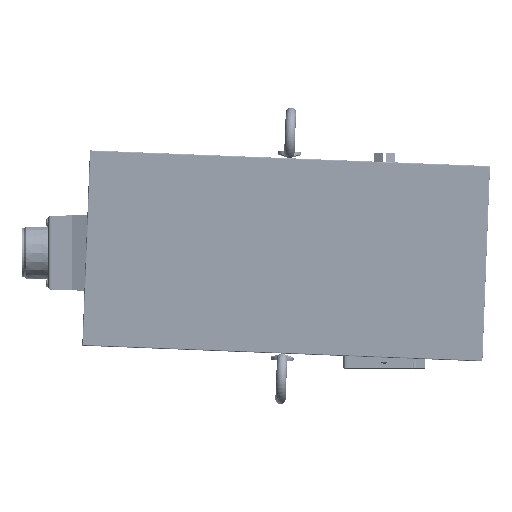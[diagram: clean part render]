
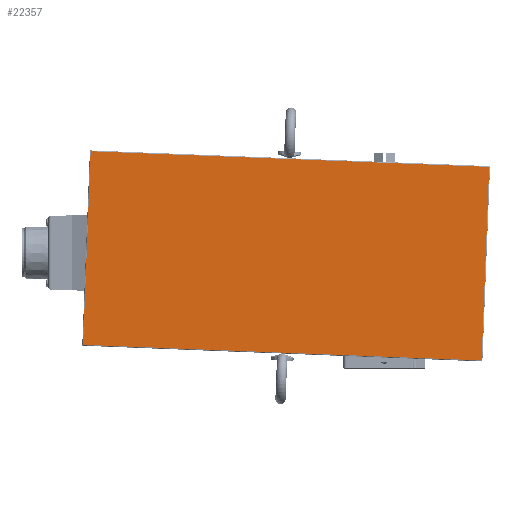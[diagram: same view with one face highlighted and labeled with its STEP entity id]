
A CAD part, top view. The second image highlights one B-rep face of the part: STEP entity #22357.
In plain terms, the highlighted planar face has unit normal (0, 0, 1).
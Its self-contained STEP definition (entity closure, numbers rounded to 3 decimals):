
#22318=CARTESIAN_POINT('',(-57.501,64.806,416.601));
#22319=DIRECTION('',(0.039,0.999,0.));
#22320=DIRECTION('',(0.,-0.,1.));
#22321=AXIS2_PLACEMENT_3D('',#22318,#22320,#22319);
#22322=PLANE('',#22321);
#22323=CARTESIAN_POINT('',(-183.675,-51.832,416.601));
#22324=VERTEX_POINT('',#22323);
#22325=CARTESIAN_POINT('',(59.137,-61.368,416.601));
#22326=VERTEX_POINT('',#22325);
#22327=CARTESIAN_POINT('',(-183.675,-51.832,416.601));
#22328=DIRECTION('',(0.999,-0.039,0.));
#22329=VECTOR('',#22328,243.);
#22330=LINE('',#22327,#22329);
#22331=EDGE_CURVE('',#22324,#22326,#22330,.T.);
#22332=ORIENTED_EDGE('E4706',*,*,#22331,.T.);
#22333=CARTESIAN_POINT('',(63.768,56.541,416.601));
#22334=VERTEX_POINT('',#22333);
#22335=CARTESIAN_POINT('',(59.137,-61.368,416.601));
#22336=DIRECTION('',(0.039,0.999,0.));
#22337=VECTOR('',#22336,118.);
#22338=LINE('',#22335,#22337);
#22339=EDGE_CURVE('',#22326,#22334,#22338,.T.);
#22340=ORIENTED_EDGE('E4707',*,*,#22339,.T.);
#22341=CARTESIAN_POINT('',(-179.045,66.077,416.601));
#22342=VERTEX_POINT('',#22341);
#22343=CARTESIAN_POINT('',(63.768,56.541,416.601));
#22344=DIRECTION('',(-0.999,0.039,0.));
#22345=VECTOR('',#22344,243.);
#22346=LINE('',#22343,#22345);
#22347=EDGE_CURVE('',#22334,#22342,#22346,.T.);
#22348=ORIENTED_EDGE('E4708',*,*,#22347,.T.);
#22349=CARTESIAN_POINT('',(-179.045,66.077,416.601));
#22350=DIRECTION('',(-0.039,-0.999,0.));
#22351=VECTOR('',#22350,118.);
#22352=LINE('',#22349,#22351);
#22353=EDGE_CURVE('',#22342,#22324,#22352,.T.);
#22354=ORIENTED_EDGE('E4709',*,*,#22353,.T.);
#22355=EDGE_LOOP('',(#22332,#22340,#22348,#22354));
#22356=FACE_OUTER_BOUND('',#22355,.T.);
#22357=ADVANCED_FACE('F1819',(#22356),#22322,.T.);
